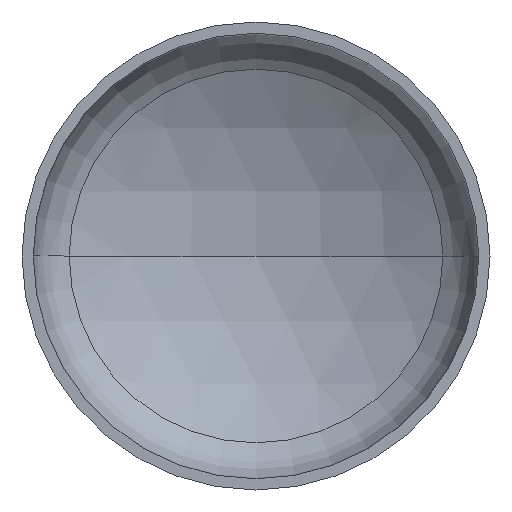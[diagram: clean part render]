
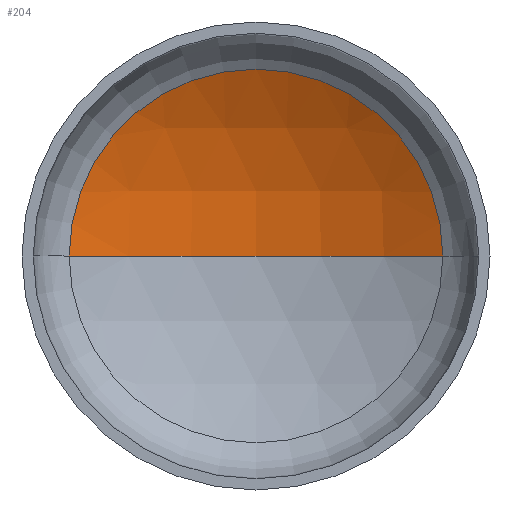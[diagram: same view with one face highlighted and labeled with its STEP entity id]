
A CAD part, front view. The second image highlights one B-rep face of the part: STEP entity #204.
In plain terms, the highlighted spherical face has radius 2400 mm.
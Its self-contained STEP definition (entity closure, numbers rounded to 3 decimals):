
#5 = EDGE_LOOP ( 'NONE', ( #67, #57, #11 ) ) ;
#6 = DIRECTION ( 'NONE',  ( -1., 0., 0. ) ) ;
#11 = ORIENTED_EDGE ( 'NONE', *, *, #347, .T. ) ;
#17 = AXIS2_PLACEMENT_3D ( 'NONE', #179, #369, #218 ) ;
#19 = CARTESIAN_POINT ( 'NONE',  ( 0., -1561.242, 0. ) ) ;
#24 = AXIS2_PLACEMENT_3D ( 'NONE', #177, #166, #171 ) ;
#33 = VERTEX_POINT ( 'NONE', #266 ) ;
#47 = AXIS2_PLACEMENT_3D ( 'NONE', #19, #50, #6 ) ;
#50 = DIRECTION ( 'NONE',  ( 0., 0., -1. ) ) ;
#57 = ORIENTED_EDGE ( 'NONE', *, *, #356, .T. ) ;
#67 = ORIENTED_EDGE ( 'NONE', *, *, #389, .F. ) ;
#96 = VERTEX_POINT ( 'NONE', #348 ) ;
#142 = VERTEX_POINT ( 'NONE', #192 ) ;
#154 = CARTESIAN_POINT ( 'NONE',  ( 0., -1561.242, 0. ) ) ;
#166 = DIRECTION ( 'NONE',  ( 0., -1., 0. ) ) ;
#170 = DIRECTION ( 'NONE',  ( 1., 0., 0. ) ) ;
#171 = DIRECTION ( 'NONE',  ( 1., 0., 0. ) ) ;
#177 = CARTESIAN_POINT ( 'NONE',  ( 0., 518.645, 0. ) ) ;
#179 = CARTESIAN_POINT ( 'NONE',  ( 0., -1561.242, 0. ) ) ;
#192 = CARTESIAN_POINT ( 'NONE',  ( -1197.526, 518.645, 0. ) ) ;
#204 = ADVANCED_FACE ( 'NONE', ( #305 ), #294, .F. ) ;
#218 = DIRECTION ( 'NONE',  ( -1., 0., 0. ) ) ;
#263 = AXIS2_PLACEMENT_3D ( 'NONE', #154, #326, #170 ) ;
#266 = CARTESIAN_POINT ( 'NONE',  ( 0., 838.758, 0. ) ) ;
#294 = SPHERICAL_SURFACE ( 'NONE', #47, 2400. ) ;
#305 = FACE_OUTER_BOUND ( 'NONE', #5, .T. ) ;
#315 = CIRCLE ( 'NONE', #263, 2400. ) ;
#326 = DIRECTION ( 'NONE',  ( 0., 0., 1. ) ) ;
#342 = CIRCLE ( 'NONE', #24, 1197.526 ) ;
#347 = EDGE_CURVE ( 'NONE', #96, #142, #342, .T. ) ;
#348 = CARTESIAN_POINT ( 'NONE',  ( 1197.526, 518.645, 0. ) ) ;
#356 = EDGE_CURVE ( 'NONE', #33, #96, #397, .T. ) ;
#369 = DIRECTION ( 'NONE',  ( 0., 0., -1. ) ) ;
#389 = EDGE_CURVE ( 'NONE', #33, #142, #315, .T. ) ;
#397 = CIRCLE ( 'NONE', #17, 2400. ) ;
